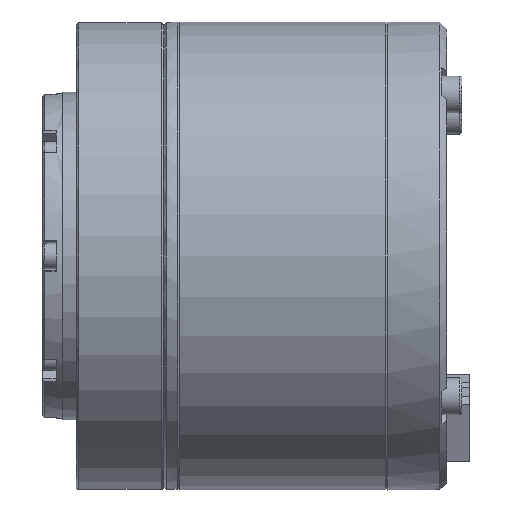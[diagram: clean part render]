
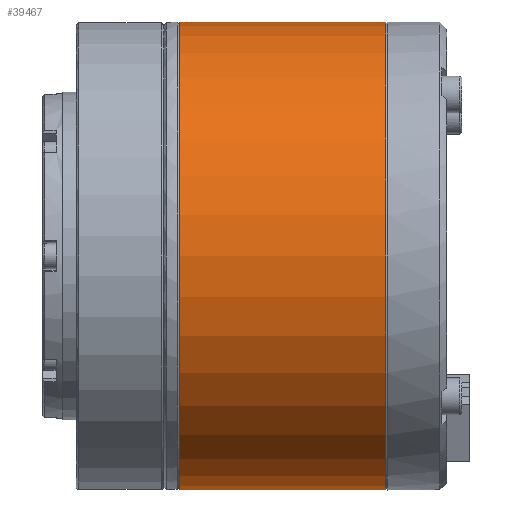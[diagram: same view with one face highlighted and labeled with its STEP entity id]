
A CAD part, front view. The second image highlights one B-rep face of the part: STEP entity #39467.
In plain terms, the highlighted cylindrical face has radius 35 mm (diameter 70 mm), a full revolution.
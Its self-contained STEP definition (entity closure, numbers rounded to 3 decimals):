
#507 = CARTESIAN_POINT ( 'NONE',  ( 26.519, 0., 0. ) ) ;
#2001 = FACE_OUTER_BOUND ( 'NONE', #62649, .T. ) ;
#4272 = EDGE_LOOP ( 'NONE', ( #77470 ) ) ;
#4841 = CARTESIAN_POINT ( 'NONE',  ( 26.519, 0., -35. ) ) ;
#8636 = CARTESIAN_POINT ( 'NONE',  ( 66.419, 0., 0. ) ) ;
#9581 = CARTESIAN_POINT ( 'NONE',  ( 57.319, 0., 35. ) ) ;
#14252 = AXIS2_PLACEMENT_3D ( 'NONE', #507, #59731, #18956 ) ;
#18956 = DIRECTION ( 'NONE',  ( 0., 0., -1. ) ) ;
#25944 = CYLINDRICAL_SURFACE ( 'NONE', #55479, 35. ) ;
#26943 = EDGE_CURVE ( 'NONE', #59865, #59865, #40992, .T. ) ;
#32581 = DIRECTION ( 'NONE',  ( -1., 0., 0. ) ) ;
#39467 = ADVANCED_FACE ( 'NONE', ( #2001, #69007 ), #25944, .T. ) ;
#39693 = DIRECTION ( 'NONE',  ( 0., 0., 1. ) ) ;
#40849 = EDGE_CURVE ( 'NONE', #70321, #70321, #44303, .T. ) ;
#40992 = CIRCLE ( 'NONE', #61038, 35. ) ;
#44303 = CIRCLE ( 'NONE', #14252, 35. ) ;
#45563 = CARTESIAN_POINT ( 'NONE',  ( 57.319, 0., 0. ) ) ;
#55479 = AXIS2_PLACEMENT_3D ( 'NONE', #8636, #32581, #56454 ) ;
#56454 = DIRECTION ( 'NONE',  ( 0., 0.924, -0.383 ) ) ;
#59731 = DIRECTION ( 'NONE',  ( -1., 0., 0. ) ) ;
#59865 = VERTEX_POINT ( 'NONE', #9581 ) ;
#61038 = AXIS2_PLACEMENT_3D ( 'NONE', #45563, #69466, #39693 ) ;
#62649 = EDGE_LOOP ( 'NONE', ( #63764 ) ) ;
#63764 = ORIENTED_EDGE ( 'NONE', *, *, #40849, .F. ) ;
#69007 = FACE_OUTER_BOUND ( 'NONE', #4272, .T. ) ;
#69466 = DIRECTION ( 'NONE',  ( -1., 0., 0. ) ) ;
#70321 = VERTEX_POINT ( 'NONE', #4841 ) ;
#77470 = ORIENTED_EDGE ( 'NONE', *, *, #26943, .T. ) ;
